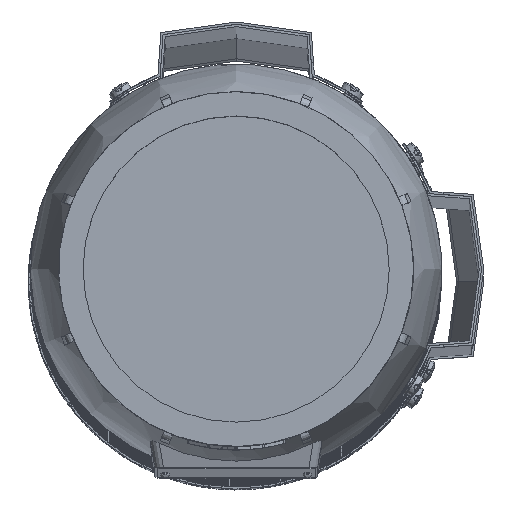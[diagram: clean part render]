
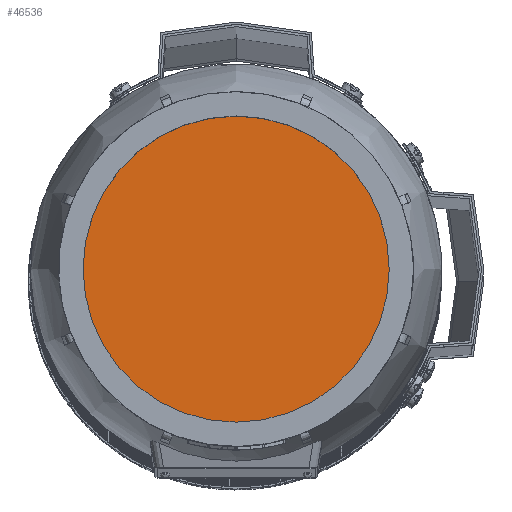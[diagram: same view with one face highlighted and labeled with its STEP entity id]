
A CAD part, top view. The second image highlights one B-rep face of the part: STEP entity #46536.
In plain terms, the highlighted planar face has unit normal (0, 0, 1) as drawn and (0, 1, 0) by its records, which use the part's own axes.
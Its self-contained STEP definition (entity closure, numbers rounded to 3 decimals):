
#9869=ORIENTED_EDGE('',*,*,#23925,.F.);
#23925=EDGE_CURVE('',#30953,#30953,#35683,.T.);
#30953=VERTEX_POINT('',#67201);
#35683=CIRCLE('',#49075,67.736);
#37806=EDGE_LOOP('',(#9869));
#41160=FACE_BOUND('',#37806,.T.);
#44532=PLANE('',#49074);
#46536=ADVANCED_FACE('',(#41160),#44532,.F.);
#49074=AXIS2_PLACEMENT_3D('',#67199,#53684,#53685);
#49075=AXIS2_PLACEMENT_3D('',#67200,#53686,#53687);
#53684=DIRECTION('',(0.,-1.,0.));
#53685=DIRECTION('',(0.,0.,-1.));
#53686=DIRECTION('',(0.,-1.,0.));
#53687=DIRECTION('',(0.,0.,-1.));
#67199=CARTESIAN_POINT('',(0.,154.,0.));
#67200=CARTESIAN_POINT('',(0.,154.,0.));
#67201=CARTESIAN_POINT('',(0.,154.,-67.736));
